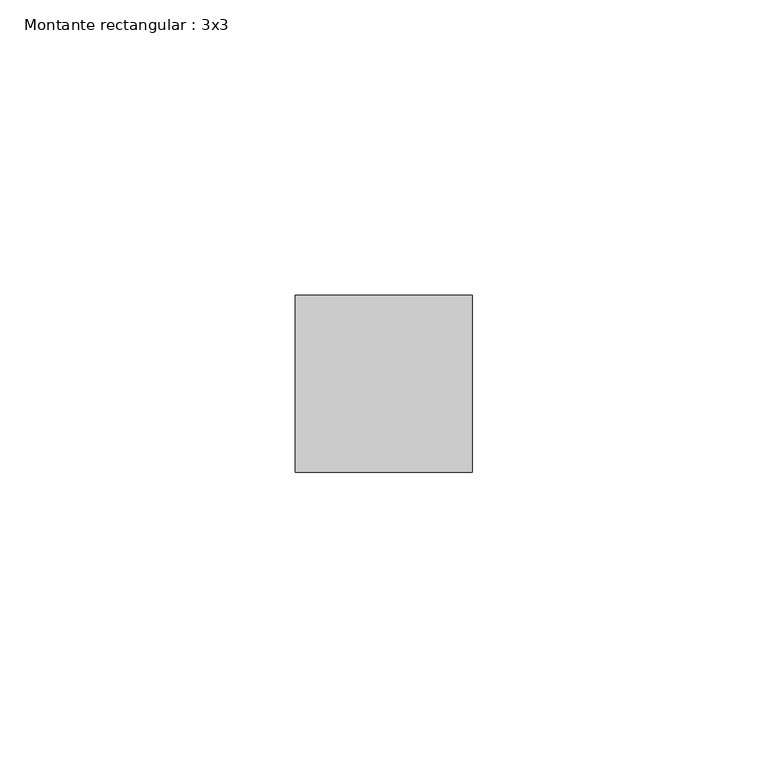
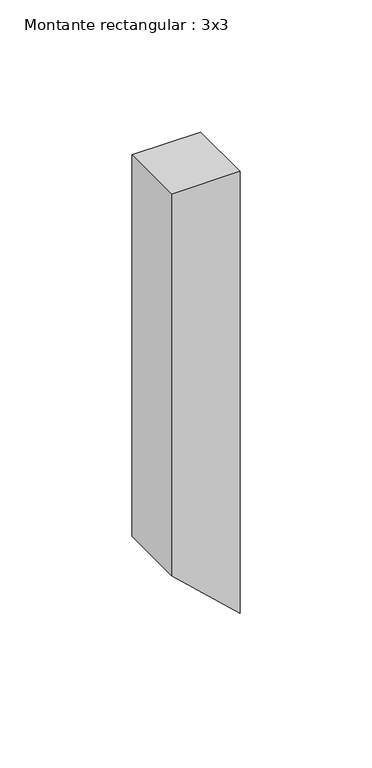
"""IFC4 building model written with IfcOpenShell, lengths in millimetres: member geometry, Montante rectangular : 3x3."""

from ifc_helpers import new_model, si_unit, frame, origin, place, context, project, spatial, polyline, outline, extrude, source, transform, mapped, element, save


def montante_rectangular_3x3_93c7497e(model_context):
    return source(origin(), model_context, "Body", "SweptSolid", [
        extrude(outline(polyline([(0.0, 0.0), (0.0, -30.0), (-176.1792987, -30.0), (-204.0670737, 0.0), (0.0, 0.0)])), frame((0.0, -15.0, 0.0), z_axis=(0.0, 1.0, 0.0), x_axis=(0.0, 0.0, 1.0)), (0.0, 0.0, 1.0), 30.0),
    ])


if __name__ == "__main__":
    model = new_model("IFC4")
    model_context = context("Model", 3, world=origin())
    ifc_project = project(units=[si_unit("LENGTHUNIT", "METRE", prefix="MILLI")], contexts=[model_context])
    site = spatial("IfcSite", under=ifc_project)
    building = spatial("IfcBuilding", under=site)
    placement = place(None, origin())
    montante_rectangular_3x3_shape = montante_rectangular_3x3_93c7497e(model_context)
    element("IfcMember", 1, ObjectType="Montante rectangular : 3x3", at=placement, inside=building, context=model_context, shape_type="MappedRepresentation", body=[
        mapped(montante_rectangular_3x3_shape, transform((0.0, 0.0, 0.0), x_axis=(1.0, 0.0, 0.0), y_axis=(0.0, 1.0, 0.0), z_axis=(0.0, 0.0, 1.0))),
    ])
    save(model, "model.ifc")
